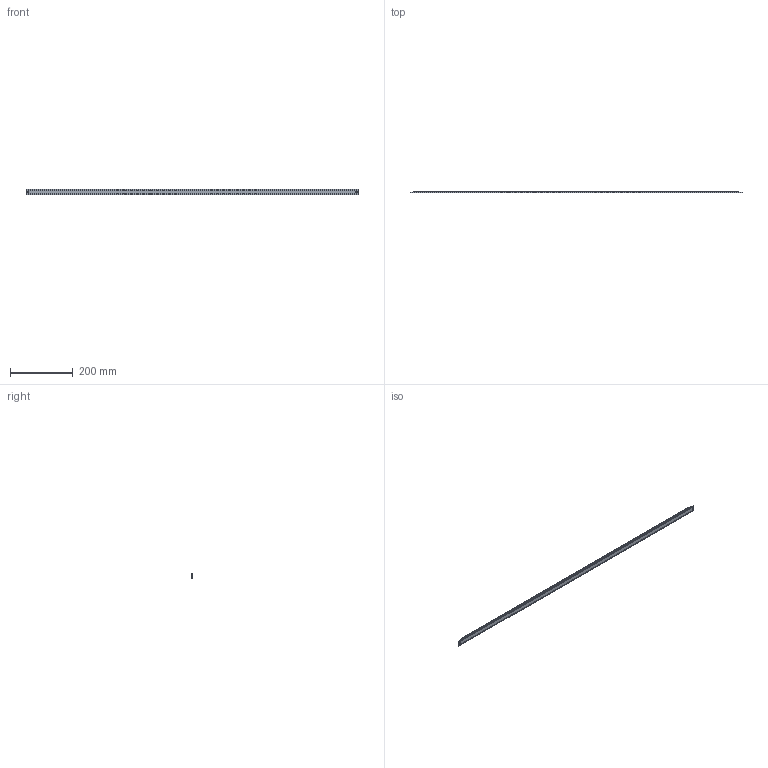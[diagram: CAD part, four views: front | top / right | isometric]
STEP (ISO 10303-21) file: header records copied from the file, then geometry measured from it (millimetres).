
FILE_DESCRIPTION (( 'STEP AP214' ), '1' );
FILE_NAME ('HLMScale.ScaleLength1060.STEP', '2023-02-07T05:55:09', ( '' ), ( '' ), 'SwSTEP 2.0', 'SolidWorks 2020', '' );
FILE_SCHEMA (( 'AUTOMOTIVE_DESIGN' ));
Length unit declared in the file: millimetre
Products named in the file (1): HLMScale.ScaleLength1060
Bounding box: 1060 x 6.08 x 18 mm (x, y, z)
Volume: 106481.4 mm3; surface area: 58529.7 mm2
Topology: 1 solids, 1 shells, 56 faces, 149 edges, 98 vertices
Faces by surface type: plane 31, cylinder 25
Entity records: 1857 total; most frequent: CARTESIAN_POINT 412, ORIENTED_EDGE 298, DIRECTION 285, EDGE_CURVE 149, LINE 103, VECTOR 103, VERTEX_POINT 98, AXIS2_PLACEMENT_3D 91
